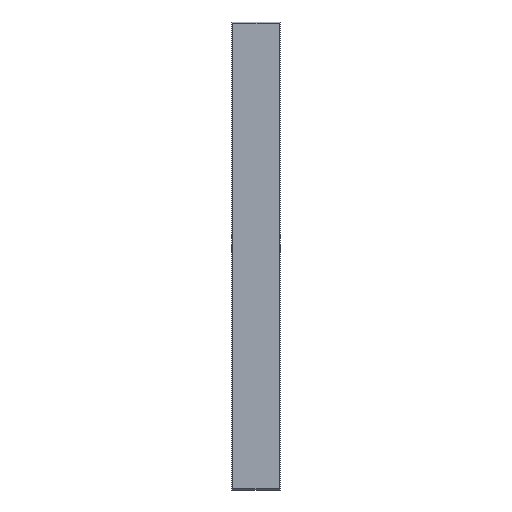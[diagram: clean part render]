
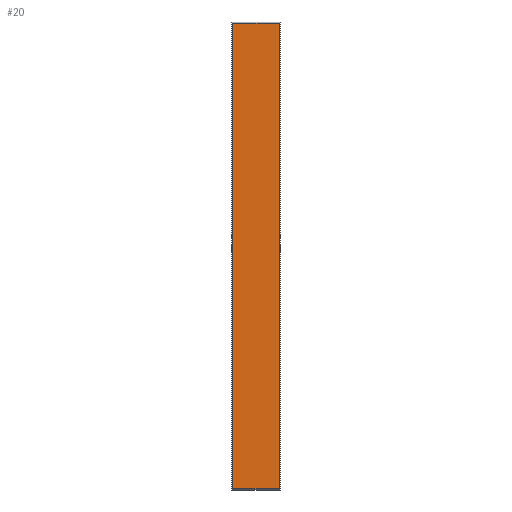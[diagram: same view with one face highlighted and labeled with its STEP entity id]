
A CAD part, front view. The second image highlights one B-rep face of the part: STEP entity #20.
In plain terms, the highlighted planar face has unit normal (0, -1, 0).
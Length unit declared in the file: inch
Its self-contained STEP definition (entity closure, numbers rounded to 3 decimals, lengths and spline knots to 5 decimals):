
#20=ADVANCED_FACE('',(#30),#142,.T.);
#30=FACE_OUTER_BOUND('',#40,.T.);
#40=EDGE_LOOP('',(#68,#69,#70,#71));
#68=ORIENTED_EDGE('',*,*,#84,.F.);
#69=ORIENTED_EDGE('',*,*,#95,.F.);
#70=ORIENTED_EDGE('',*,*,#91,.F.);
#71=ORIENTED_EDGE('',*,*,#88,.F.);
#84=EDGE_CURVE('',#124,#125,#104,.T.);
#88=EDGE_CURVE('',#125,#128,#108,.T.);
#91=EDGE_CURVE('',#128,#130,#111,.T.);
#95=EDGE_CURVE('',#130,#124,#115,.T.);
#104=B_SPLINE_CURVE_WITH_KNOTS('',1,(#285,#286),.UNSPECIFIED.,.F.,.F.,(2,
2),(0.,95.5),.UNSPECIFIED.);
#108=B_SPLINE_CURVE_WITH_KNOTS('',1,(#293,#294),.UNSPECIFIED.,.F.,.F.,(2,
2),(0.,9.5),.UNSPECIFIED.);
#111=B_SPLINE_CURVE_WITH_KNOTS('',1,(#299,#300),.UNSPECIFIED.,.F.,.F.,(2,
2),(0.,95.5),.UNSPECIFIED.);
#115=B_SPLINE_CURVE_WITH_KNOTS('',1,(#307,#308),.UNSPECIFIED.,.F.,.F.,(2,
2),(0.,9.5),.UNSPECIFIED.);
#124=VERTEX_POINT('',#273);
#125=VERTEX_POINT('',#274);
#128=VERTEX_POINT('',#277);
#130=VERTEX_POINT('',#279);
#142=PLANE('',#243);
#243=AXIS2_PLACEMENT_3D('',#269,#256,$);
#256=DIRECTION('',(0.,-1.,0.));
#269=CARTESIAN_POINT('',(-5.70472,-0.5,57.30472));
#273=CARTESIAN_POINT('',(-4.75,-0.5,-47.75));
#274=CARTESIAN_POINT('',(-4.75,-0.5,47.75));
#277=CARTESIAN_POINT('',(4.75,-0.5,47.75));
#279=CARTESIAN_POINT('',(4.75,-0.5,-47.75));
#285=CARTESIAN_POINT('',(-4.75,-0.5,-47.75));
#286=CARTESIAN_POINT('',(-4.75,-0.5,47.75));
#293=CARTESIAN_POINT('',(-4.75,-0.5,47.75));
#294=CARTESIAN_POINT('',(4.75,-0.5,47.75));
#299=CARTESIAN_POINT('',(4.75,-0.5,47.75));
#300=CARTESIAN_POINT('',(4.75,-0.5,-47.75));
#307=CARTESIAN_POINT('',(4.75,-0.5,-47.75));
#308=CARTESIAN_POINT('',(-4.75,-0.5,-47.75));
